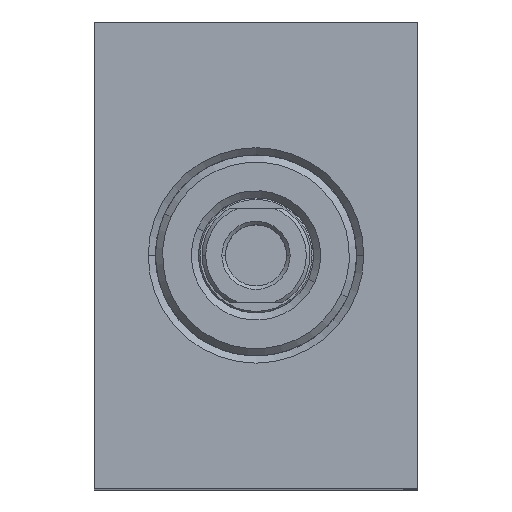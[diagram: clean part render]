
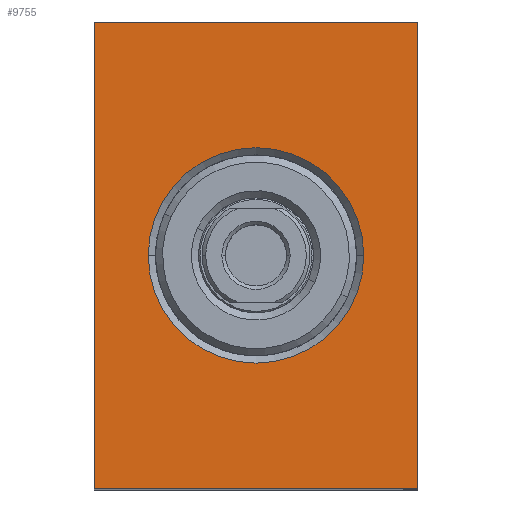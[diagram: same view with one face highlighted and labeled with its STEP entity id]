
A CAD part, top view. The second image highlights one B-rep face of the part: STEP entity #9755.
In plain terms, the highlighted planar face has unit normal (0, 0, 1).
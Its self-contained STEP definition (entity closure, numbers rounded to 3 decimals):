
#661 = CARTESIAN_POINT ( 'NONE',  ( 45., 0., 94. ) ) ;
#1002 = DIRECTION ( 'NONE',  ( 0., 0., -1. ) ) ;
#1019 = CARTESIAN_POINT ( 'NONE',  ( 0., 0., 94. ) ) ;
#1113 = EDGE_LOOP ( 'NONE', ( #9842, #6922, #1887, #5443 ) ) ;
#1352 = CARTESIAN_POINT ( 'NONE',  ( 22.5, 32.5, 94. ) ) ;
#1478 = CARTESIAN_POINT ( 'NONE',  ( 45., 0., 94. ) ) ;
#1649 = VERTEX_POINT ( 'NONE', #661 ) ;
#1699 = CARTESIAN_POINT ( 'NONE',  ( 0., 0., 94. ) ) ;
#1887 = ORIENTED_EDGE ( 'NONE', *, *, #3835, .T. ) ;
#2008 = AXIS2_PLACEMENT_3D ( 'NONE', #4968, #5031, #2658 ) ;
#2157 = DIRECTION ( 'NONE',  ( 0., 1., 0. ) ) ;
#2554 = LINE ( 'NONE', #1699, #8747 ) ;
#2658 = DIRECTION ( 'NONE',  ( -1., 0., 0. ) ) ;
#2664 = CIRCLE ( 'NONE', #4860, 15. ) ;
#2715 = DIRECTION ( 'NONE',  ( 0., -1., 0. ) ) ;
#2804 = LINE ( 'NONE', #1019, #6507 ) ;
#3066 = VECTOR ( 'NONE', #7165, 1000. ) ;
#3180 = FACE_BOUND ( 'NONE', #7919, .T. ) ;
#3217 = VERTEX_POINT ( 'NONE', #7637 ) ;
#3442 = EDGE_CURVE ( 'NONE', #8910, #1649, #2554, .T. ) ;
#3546 = VERTEX_POINT ( 'NONE', #6640 ) ;
#3835 = EDGE_CURVE ( 'NONE', #1649, #3217, #10126, .T. ) ;
#4115 = PLANE ( 'NONE',  #10163 ) ;
#4241 = EDGE_CURVE ( 'NONE', #4267, #8612, #2664, .T. ) ;
#4267 = VERTEX_POINT ( 'NONE', #5933 ) ;
#4860 = AXIS2_PLACEMENT_3D ( 'NONE', #1352, #9193, #6863 ) ;
#4968 = CARTESIAN_POINT ( 'NONE',  ( 22.5, 32.5, 94. ) ) ;
#5031 = DIRECTION ( 'NONE',  ( 0., 0., -1. ) ) ;
#5229 = EDGE_CURVE ( 'NONE', #8612, #4267, #5731, .T. ) ;
#5443 = ORIENTED_EDGE ( 'NONE', *, *, #8781, .T. ) ;
#5701 = DIRECTION ( 'NONE',  ( -1., 0., 0. ) ) ;
#5731 = CIRCLE ( 'NONE', #2008, 15. ) ;
#5933 = CARTESIAN_POINT ( 'NONE',  ( 37.5, 32.5, 94. ) ) ;
#6009 = LINE ( 'NONE', #10293, #3066 ) ;
#6145 = ORIENTED_EDGE ( 'NONE', *, *, #4241, .T. ) ;
#6507 = VECTOR ( 'NONE', #2715, 1000. ) ;
#6640 = CARTESIAN_POINT ( 'NONE',  ( 0., 65., 94. ) ) ;
#6863 = DIRECTION ( 'NONE',  ( -1., 0., 0. ) ) ;
#6922 = ORIENTED_EDGE ( 'NONE', *, *, #3442, .T. ) ;
#7165 = DIRECTION ( 'NONE',  ( -1., 0., 0. ) ) ;
#7216 = DIRECTION ( 'NONE',  ( 1., 0., 0. ) ) ;
#7303 = CARTESIAN_POINT ( 'NONE',  ( 7.5, 32.5, 94. ) ) ;
#7637 = CARTESIAN_POINT ( 'NONE',  ( 45., 65., 94. ) ) ;
#7919 = EDGE_LOOP ( 'NONE', ( #6145, #9786 ) ) ;
#7998 = VECTOR ( 'NONE', #2157, 1000. ) ;
#8523 = EDGE_CURVE ( 'NONE', #3546, #8910, #2804, .T. ) ;
#8612 = VERTEX_POINT ( 'NONE', #7303 ) ;
#8747 = VECTOR ( 'NONE', #7216, 1000. ) ;
#8781 = EDGE_CURVE ( 'NONE', #3217, #3546, #6009, .T. ) ;
#8801 = CARTESIAN_POINT ( 'NONE',  ( 0., 0., 94. ) ) ;
#8910 = VERTEX_POINT ( 'NONE', #8801 ) ;
#8924 = CARTESIAN_POINT ( 'NONE',  ( 0., 0., 94. ) ) ;
#9193 = DIRECTION ( 'NONE',  ( 0., 0., -1. ) ) ;
#9627 = FACE_OUTER_BOUND ( 'NONE', #1113, .T. ) ;
#9755 = ADVANCED_FACE ( 'NONE', ( #3180, #9627 ), #4115, .F. ) ;
#9786 = ORIENTED_EDGE ( 'NONE', *, *, #5229, .T. ) ;
#9842 = ORIENTED_EDGE ( 'NONE', *, *, #8523, .T. ) ;
#10126 = LINE ( 'NONE', #1478, #7998 ) ;
#10163 = AXIS2_PLACEMENT_3D ( 'NONE', #8924, #1002, #5701 ) ;
#10293 = CARTESIAN_POINT ( 'NONE',  ( 0., 65., 94. ) ) ;
